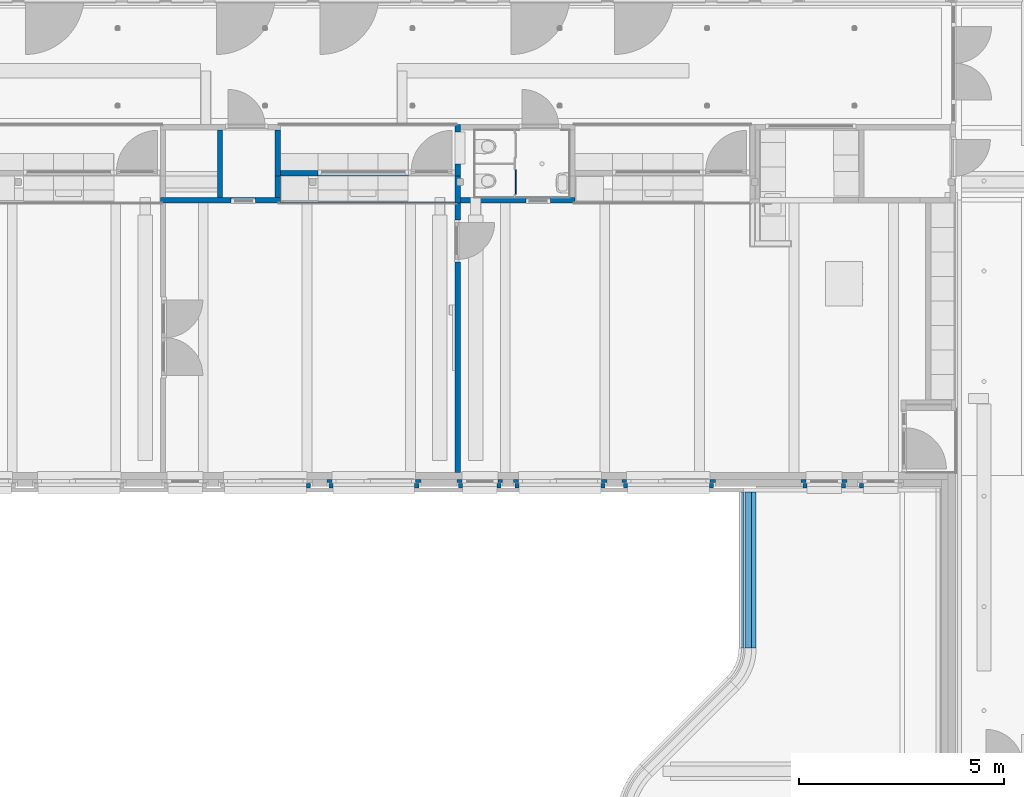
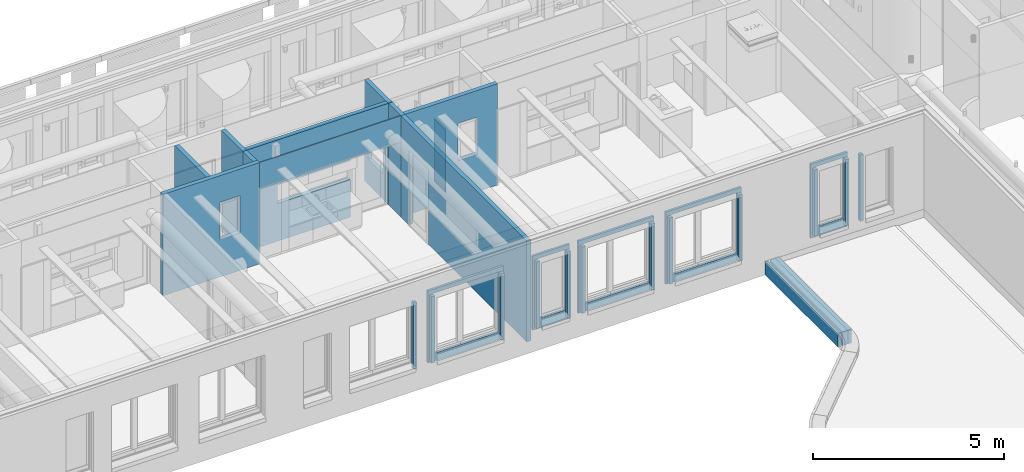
# One storey, part 49 of 128: 31 walls, 11 openings.
"""IFC2X3 building model written with IfcOpenShell, lengths in millimetres."""

import ifcopenshell
import ifcopenshell.guid

model = None  # the IFC model being written
_history = None  # IfcOwnerHistory: only IFC2X3 demands one
_inside = {}  # id of a spatial element -> (the spatial element, [elements in it])
_under = {}  # id of a project, library or spatial element -> (it, [spatial elements below it])
_declared = {}  # id of a project -> (the project, [libraries it declares])
_typed = {}  # id of a type object -> (the type object, [elements of that type])
_made_of = {}  # id of a material, layer set ... -> (it, [elements and type objects made of it])


def new_model(schema):
    """Start an empty IFC model of exactly this schema.

    Asked for "IFC4X3", IfcOpenShell would pick the latest addendum, in which some entities
    have other attributes; the version numbers below select the first issue.
    IFC2X3 requires an IfcOwnerHistory on every rooted entity: one is made here for all.
    """
    global model, _history
    if schema == "IFC4X3":
        model = ifcopenshell.file(schema_version=(4, 3, 0, 0))
    else:
        model = ifcopenshell.file(schema=schema)
    _inside.clear()
    _under.clear()
    _declared.clear()
    _typed.clear()
    _made_of.clear()
    _history = None
    if model.schema == "IFC2X3":
        org = make("IfcOrganization", Name="unknown")
        user = make(
            "IfcPersonAndOrganization",
            ThePerson=make("IfcPerson", FamilyName="unknown"),
            TheOrganization=org,
        )
        app = make(
            "IfcApplication",
            ApplicationDeveloper=org,
            Version="unknown",
            ApplicationFullName="unknown",
            ApplicationIdentifier="unknown",
        )
        _history = make(
            "IfcOwnerHistory",
            OwningUser=user,
            OwningApplication=app,
            ChangeAction="ADDED",
            CreationDate=0,
        )
    return model


def make(cls, **values):
    """One entity of the class cls with the attributes given. An attribute that is None is left unset."""
    return model.create_entity(
        cls, **{name: value for name, value in values.items() if value is not None}
    )


def entity(cls, *values):
    """Any entity or typed value of the class cls, its attributes in the order of the schema. None: left unset."""
    e = model.create_entity(cls)
    for i, value in enumerate(values):
        if value is not None:
            e[i] = value
    return e


def rooted(cls, **values):
    """An entity with a GlobalId (a new one), such as an element, a storey or a relation."""
    return make(cls, GlobalId=ifcopenshell.guid.new(), OwnerHistory=_history, **values)


def si_unit(unit_type, name, prefix=None):
    """IfcSIUnit, for example si_unit("LENGTHUNIT", "METRE", prefix="MILLI")."""
    return make("IfcSIUnit", UnitType=unit_type, Prefix=prefix, Name=name)


def converted_unit(unit_type, name, factor, base, dimensions=None, offset=None):
    """IfcConversionBasedUnit, such as the inch: factor (a typed value) times the base unit."""
    return make(
        "IfcConversionBasedUnit"
        if offset is None
        else "IfcConversionBasedUnitWithOffset",
        ConversionOffset=offset,
        Dimensions=None
        if dimensions is None
        else entity("IfcDimensionalExponents", *dimensions),
        UnitType=unit_type,
        Name=name,
        ConversionFactor=make(
            "IfcMeasureWithUnit", ValueComponent=factor, UnitComponent=base
        ),
    )


def derived_unit(unit_type, elements):
    """IfcDerivedUnit: a product of units, each with its exponent."""
    return make(
        "IfcDerivedUnit",
        Elements=[
            make("IfcDerivedUnitElement", Unit=unit, Exponent=power)
            for unit, power in elements
        ],
        UnitType=unit_type,
    )


def assignment(units):
    """IfcUnitAssignment: the units of a project."""
    return None if units is None else make("IfcUnitAssignment", Units=units)


def point(xyz):
    """IfcCartesianPoint."""
    return None if xyz is None else make("IfcCartesianPoint", Coordinates=xyz)


def direction(xyz):
    """IfcDirection."""
    return None if xyz is None else make("IfcDirection", DirectionRatios=xyz)


def frame(location, z_axis=None, x_axis=None):
    """IfcAxis2Placement3D, a coordinate frame: its origin and axes. An axis left out is left unset."""
    return make(
        "IfcAxis2Placement3D",
        Location=point(location),
        Axis=direction(z_axis),
        RefDirection=direction(x_axis),
    )


def frame_2d(location, x_axis=None):
    """IfcAxis2Placement2D, a coordinate frame in the plane: its origin and x axis."""
    return make(
        "IfcAxis2Placement2D", Location=point(location), RefDirection=direction(x_axis)
    )


def origin():
    """The frame at (0, 0, 0) with its axes left unset."""
    return frame((0.0, 0.0, 0.0))


def origin_2d_with_axis():
    """The frame at (0, 0) in the plane with the x axis (1, 0) written out."""
    return frame_2d((0.0, 0.0), x_axis=(1.0, 0.0))


def place(relative_to, where):
    """IfcLocalPlacement: puts the frame where relative to a parent placement (None: the world)."""
    return make(
        "IfcLocalPlacement", PlacementRelTo=relative_to, RelativePlacement=where
    )


def context(
    kind, dimensions, precision=None, world=None, true_north=None, identifier=None
):
    """IfcGeometricRepresentationContext, for example the 3D "Model" context."""
    return make(
        "IfcGeometricRepresentationContext",
        ContextIdentifier=identifier,
        ContextType=kind,
        CoordinateSpaceDimension=dimensions,
        Precision=precision,
        WorldCoordinateSystem=world,
        TrueNorth=true_north,
    )


def subcontext(parent, identifier, kind, view, scale=None):
    """IfcGeometricRepresentationSubContext, for example "Body" below "Model"."""
    return make(
        "IfcGeometricRepresentationSubContext",
        ContextIdentifier=identifier,
        ContextType=kind,
        ParentContext=parent,
        TargetScale=scale,
        TargetView=view,
    )


def project(units=None, contexts=None):
    """IfcProject with its units and contexts."""
    return rooted(
        "IfcProject",
        Name="project",
        RepresentationContexts=contexts,
        UnitsInContext=assignment(units),
    )


def spatial(cls, under=None, at=None, **own):
    """A site, building, storey or space (cls), placed at a placement, below another one or the project."""
    s = rooted(cls, ObjectPlacement=at, **own)
    if under is not None:
        _under.setdefault(under.id(), (under, []))[1].append(s)
    return s


def profile(cls, at=None, kind="AREA", **sizes):
    """A parametric profile (cls). Its sizes go by their IFC names, for example OverallWidth=200.0."""
    return make(cls, ProfileType=kind, Position=at, **sizes)


def rectangle(**sizes):
    """IfcRectangleProfileDef."""
    return profile("IfcRectangleProfileDef", **sizes)


def extrude(swept, where, along, depth):
    """IfcExtrudedAreaSolid: the profile swept, set in the frame where, extruded along a direction by depth."""
    return make(
        "IfcExtrudedAreaSolid",
        SweptArea=swept,
        Position=where,
        ExtrudedDirection=direction(along),
        Depth=depth,
    )


def shape(context_of_items, identifier, shape_type, items):
    """IfcShapeRepresentation: the items that make up one representation, for example the "Body"."""
    return make(
        "IfcShapeRepresentation",
        ContextOfItems=context_of_items,
        RepresentationIdentifier=identifier,
        RepresentationType=shape_type,
        Items=items,
    )


def material(Name=None, Category=None):
    """IfcMaterial."""
    return make("IfcMaterial", Name=Name, Category=Category)


def layer(
    of_material, thickness, ventilated=None, Name=None, Category=None, Priority=None
):
    """IfcMaterialLayer: one layer of a wall or slab, of a material (None: an air gap)."""
    return make(
        "IfcMaterialLayer",
        Material=of_material,
        LayerThickness=thickness,
        IsVentilated=ventilated,
        Name=Name,
        Category=Category,
        Priority=Priority,
    )


def layer_set(layers, Name=None):
    """IfcMaterialLayerSet."""
    return make("IfcMaterialLayerSet", MaterialLayers=layers, LayerSetName=Name)


def layer_usage(for_layer_set, set_direction, sense, offset, extent=None):
    """IfcMaterialLayerSetUsage: how a layer set lies in its element."""
    return make(
        "IfcMaterialLayerSetUsage",
        ForLayerSet=for_layer_set,
        LayerSetDirection=set_direction,
        DirectionSense=sense,
        OffsetFromReferenceLine=offset,
        ReferenceExtent=extent,
    )


def made_of(thing, what):
    """Note that an element or type object is made of a material, layer set ...; save() writes the relation."""
    if what is not None:
        _made_of.setdefault(what.id(), (what, []))[1].append(thing)
    return thing


def type_object(cls, material=None, **own):
    """A type object (cls), such as IfcWallType, which elements share."""
    return made_of(rooted(cls, **own), material)


def element(
    cls,
    number,
    at=None,
    inside=None,
    cuts=None,
    type_object=None,
    material=None,
    context=None,
    identifier="Body",
    shape_type=None,
    held_by="IfcProductDefinitionShape",
    body=None,
    shapes=None,
    **own,
):
    """One element of the class cls, such as IfcWall. Its Tag is "e" and its number.

    at: its placement. inside: the storey or other place that contains it. cuts: it is an
    opening in that element (IfcRelVoidsElement). A single representation is given by context,
    identifier, shape_type and body (its items); several are given by shapes. held_by: the class
    of the entity that holds the representations. save() writes the other relations.
    """
    e = rooted(cls, Tag="e%d" % number, ObjectPlacement=at, **own)
    if body is not None:
        shapes = [shape(context, identifier, shape_type, body)]
    if shapes is not None:
        e.Representation = make(held_by, Representations=shapes)
    if inside is not None:
        _inside.setdefault(inside.id(), (inside, []))[1].append(e)
    if cuts is not None:
        rooted(
            "IfcRelVoidsElement", RelatingBuildingElement=cuts, RelatedOpeningElement=e
        )
    if type_object is not None:
        _typed.setdefault(type_object.id(), (type_object, []))[1].append(e)
    return made_of(e, material)


def aggregate(whole, parts):
    """IfcRelAggregates: a whole, such as a stair, and the parts it consists of."""
    return rooted("IfcRelAggregates", RelatingObject=whole, RelatedObjects=parts)


def save(model, path):
    """Write the relations noted so far, then the file.

    IfcRelAggregates (storeys below a building ...), IfcRelContainedInSpatialStructure (elements
    in a storey), IfcRelDefinesByType, IfcRelAssociatesMaterial and IfcRelDeclares: one each for
    every whole, place, type object, material and project.
    """
    for whole, parts in _under.values():
        aggregate(whole, parts)
    for where, things in _inside.values():
        rooted(
            "IfcRelContainedInSpatialStructure",
            RelatedElements=things,
            RelatingStructure=where,
        )
    for kind, things in _typed.values():
        rooted("IfcRelDefinesByType", RelatedObjects=things, RelatingType=kind)
    for what, things in _made_of.values():
        rooted("IfcRelAssociatesMaterial", RelatedObjects=things, RelatingMaterial=what)
    for by, libraries in _declared.values():
        rooted("IfcRelDeclares", RelatingContext=by, RelatedDefinitions=libraries)
    model.write(path)


model = new_model("IFC2X3")

# Units and contexts
model_context = context("Model", 3, precision=0.01, world=origin(), true_north=direction((6.123031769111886e-17, 1.0)))
body_context = subcontext(model_context, "Body", "Model", "MODEL_VIEW")
ifc_project = project(units=[si_unit("LENGTHUNIT", "METRE", prefix="MILLI"), si_unit("AREAUNIT", "SQUARE_METRE"), si_unit("VOLUMEUNIT", "CUBIC_METRE"), converted_unit("PLANEANGLEUNIT", "DEGREE", entity("IfcRatioMeasure", 0.017453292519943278), si_unit("PLANEANGLEUNIT", "RADIAN"), dimensions=[0, 0, 0, 0, 0, 0, 0]), si_unit("MASSUNIT", "GRAM", prefix="KILO"), derived_unit("MASSDENSITYUNIT", [(si_unit("MASSUNIT", "GRAM", prefix="KILO"), 1), (si_unit("LENGTHUNIT", "METRE"), -3)]), derived_unit("IONCONCENTRATIONUNIT", [(si_unit("MASSUNIT", "GRAM", prefix="KILO"), 1), (si_unit("LENGTHUNIT", "METRE"), -3)]), derived_unit("MOMENTOFINERTIAUNIT", [(si_unit("LENGTHUNIT", "METRE"), 4)]), si_unit("TIMEUNIT", "SECOND"), si_unit("FREQUENCYUNIT", "HERTZ"), si_unit("THERMODYNAMICTEMPERATUREUNIT", "DEGREE_CELSIUS"), derived_unit("THERMALTRANSMITTANCEUNIT", [(si_unit("MASSUNIT", "GRAM", prefix="KILO"), 1), (si_unit("THERMODYNAMICTEMPERATUREUNIT", "KELVIN"), -1), (si_unit("TIMEUNIT", "SECOND"), -3)]), derived_unit("THERMALCONDUCTANCEUNIT", [(si_unit("MASSUNIT", "GRAM", prefix="KILO"), 1), (si_unit("THERMODYNAMICTEMPERATUREUNIT", "KELVIN"), -1), (si_unit("TIMEUNIT", "SECOND"), -3), (si_unit("LENGTHUNIT", "METRE"), 1)]), derived_unit("VOLUMETRICFLOWRATEUNIT", [(si_unit("LENGTHUNIT", "METRE"), 3), (si_unit("TIMEUNIT", "SECOND"), -1)]), derived_unit("MASSFLOWRATEUNIT", [(si_unit("MASSUNIT", "GRAM", prefix="KILO"), 1), (si_unit("TIMEUNIT", "SECOND"), -1)]), derived_unit("ROTATIONALFREQUENCYUNIT", [(si_unit("TIMEUNIT", "SECOND"), -1)]), si_unit("ELECTRICCURRENTUNIT", "AMPERE"), si_unit("ELECTRICVOLTAGEUNIT", "VOLT"), si_unit("POWERUNIT", "WATT"), si_unit("FORCEUNIT", "NEWTON", prefix="KILO"), si_unit("ILLUMINANCEUNIT", "LUX"), si_unit("LUMINOUSFLUXUNIT", "LUMEN"), si_unit("LUMINOUSINTENSITYUNIT", "CANDELA"), derived_unit("USERDEFINED", [(si_unit("MASSUNIT", "GRAM", prefix="KILO"), -1), (si_unit("LENGTHUNIT", "METRE"), -2), (si_unit("TIMEUNIT", "SECOND"), 3), (si_unit("LUMINOUSFLUXUNIT", "LUMEN"), 1)]), derived_unit("USERDEFINED", [(si_unit("MASSUNIT", "GRAM", prefix="KILO"), 1), (si_unit("TIMEUNIT", "SECOND"), -3), (si_unit("LENGTHUNIT", "METRE"), 3), (si_unit("ELECTRICCURRENTUNIT", "AMPERE"), -2)]), derived_unit("SOUNDPOWERUNIT", [(si_unit("MASSUNIT", "GRAM", prefix="KILO"), 1), (si_unit("TIMEUNIT", "SECOND"), -3), (si_unit("LENGTHUNIT", "METRE"), 2)]), derived_unit("SOUNDPRESSUREUNIT", [(si_unit("MASSUNIT", "GRAM", prefix="KILO"), 1), (si_unit("LENGTHUNIT", "METRE"), -1), (si_unit("TIMEUNIT", "SECOND"), -2)]), derived_unit("LINEARVELOCITYUNIT", [(si_unit("LENGTHUNIT", "METRE"), 1), (si_unit("TIMEUNIT", "SECOND"), -1)]), si_unit("PRESSUREUNIT", "PASCAL"), derived_unit("USERDEFINED", [(si_unit("MASSUNIT", "GRAM", prefix="KILO"), 1), (si_unit("LENGTHUNIT", "METRE"), -2), (si_unit("TIMEUNIT", "SECOND"), -2)]), derived_unit("LINEARFORCEUNIT", [(si_unit("MASSUNIT", "GRAM", prefix="KILO"), 1), (si_unit("TIMEUNIT", "SECOND"), -2)]), derived_unit("PLANARFORCEUNIT", [(si_unit("MASSUNIT", "GRAM", prefix="KILO"), 1), (si_unit("LENGTHUNIT", "METRE"), -1), (si_unit("TIMEUNIT", "SECOND"), -2)]), derived_unit("SPECIFICHEATCAPACITYUNIT", [(si_unit("THERMODYNAMICTEMPERATUREUNIT", "KELVIN"), -1), (si_unit("LENGTHUNIT", "METRE"), 2), (si_unit("TIMEUNIT", "SECOND"), -2)]), derived_unit("HEATINGVALUEUNIT", [(si_unit("LENGTHUNIT", "METRE"), 2), (si_unit("TIMEUNIT", "SECOND"), -2)]), derived_unit("VAPORPERMEABILITYUNIT", [(si_unit("LENGTHUNIT", "METRE"), -1), (si_unit("TIMEUNIT", "SECOND"), 1)]), derived_unit("DYNAMICVISCOSITYUNIT", [(si_unit("MASSUNIT", "GRAM", prefix="KILO"), 1), (si_unit("TIMEUNIT", "SECOND"), -1), (si_unit("LENGTHUNIT", "METRE"), -1)]), derived_unit("THERMALEXPANSIONCOEFFICIENTUNIT", [(si_unit("THERMODYNAMICTEMPERATUREUNIT", "KELVIN"), -1)]), derived_unit("MODULUSOFELASTICITYUNIT", [(si_unit("MASSUNIT", "GRAM", prefix="KILO"), 1), (si_unit("LENGTHUNIT", "METRE"), -1), (si_unit("TIMEUNIT", "SECOND"), -2)]), derived_unit("ISOTHERMALMOISTURECAPACITYUNIT", [(si_unit("LENGTHUNIT", "METRE"), 3), (si_unit("MASSUNIT", "GRAM", prefix="KILO"), -1)]), derived_unit("MOISTUREDIFFUSIVITYUNIT", [(si_unit("TIMEUNIT", "SECOND"), -1), (si_unit("LENGTHUNIT", "METRE"), 2)])], contexts=[model_context])

# Site, building, storey
site_placement = place(None, frame((0.0, 300.0, 0.0)))
site = spatial("IfcSite", under=ifc_project, at=site_placement, Name="<Kadastrale nummers>", CompositionType="ELEMENT")
building_placement = place(site_placement, origin())
building = spatial("IfcBuilding", under=site, at=building_placement, CompositionType="ELEMENT")
storey_placement = place(building_placement, frame((0.0, 0.0, 3560.0000331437)))
storey = spatial("IfcBuildingStorey", under=building, at=storey_placement, Name="01 eerste verdieping", CompositionType="ELEMENT", Elevation=3560.0000331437)

# Walls
ifc_material_1 = material(Name="ISR_Metselwerk")
ifc_layer_1 = layer(ifc_material_1, 100.0)
ifc_layer_set_1 = layer_set([ifc_layer_1], Name="Basic Wall:21_DAT_metselwerk_100")
ifc_layer_usage_1 = layer_usage(ifc_layer_set_1, "AXIS2", "POSITIVE", -50.0)
wall_type_1 = type_object("IfcWallType", Name="Basic Wall:21_DAT_metselwerk_100", PredefinedType="STANDARD", material=ifc_layer_set_1)
wall_1_placement = place(storey_placement, frame((31475.036916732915, 37725.0, 89.99997731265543), z_axis=(0.0, 0.0, 1.0), x_axis=(0.0, -1.0, 0.0)))
element("IfcWallStandardCase", 1, at=wall_1_placement, inside=storey, type_object=wall_type_1, material=ifc_layer_usage_1, Name="Basic Wall:21_DAT_metselwerk_100", ObjectType="Basic Wall:21_DAT_metselwerk_100", context=body_context, shape_type="SweptSolid", body=[
    extrude(rectangle(XDim=3814.2862479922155, YDim=100.00000000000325, at=frame_2d((1907.1431239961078, -3.552713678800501e-15), x_axis=(-1.0, 0.0))), origin(), (0.0, 0.0, 1.0), 424.9999895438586),
])
ifc_layer_usage_2 = layer_usage(ifc_layer_set_1, "AXIS2", "NEGATIVE", 50.0)
wall_2_placement = place(storey_placement, frame((25550.0, 37825.0, 715.0000018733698), z_axis=(0.0, 0.0, 1.0), x_axis=(0.0, 1.0, 0.0)))
element("IfcWallStandardCase", 2, at=wall_2_placement, inside=storey, type_object=wall_type_1, material=ifc_layer_usage_2, Name="Basic Wall:21_DAT_metselwerk_100", ObjectType="Basic Wall:21_DAT_metselwerk_100", context=body_context, shape_type="SweptSolid", body=[
    extrude(rectangle(XDim=110.000000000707, YDim=100.00000000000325, at=frame_2d((55.0000000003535, -8.171241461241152e-14), x_axis=(-1.0, 0.0))), origin(), (0.0, 0.0, 1.0), 2125.0000000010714),
])
wall_3_placement = place(storey_placement, frame((24610.0, 37825.0, 715.0000018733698), z_axis=(0.0, 0.0, 1.0), x_axis=(0.0, 1.0, 0.0)))
element("IfcWallStandardCase", 3, at=wall_3_placement, inside=storey, type_object=wall_type_1, material=ifc_layer_usage_1, Name="Basic Wall:21_DAT_metselwerk_100", ObjectType="Basic Wall:21_DAT_metselwerk_100", context=body_context, shape_type="SweptSolid", body=[
    extrude(rectangle(XDim=110.00000000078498, YDim=100.00000000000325, at=frame_2d((55.00000000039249, -8.171241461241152e-14), x_axis=(-1.0, 0.0))), origin(), (0.0, 0.0, 1.0), 2125.0000000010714),
])
wall_4_placement = place(storey_placement, frame((33964.0, 37825.0, 715.0000018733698), z_axis=(0.0, 0.0, 1.0), x_axis=(0.0, 1.0, 0.0)))
element("IfcWallStandardCase", 4, at=wall_4_placement, inside=storey, type_object=wall_type_1, material=ifc_layer_usage_2, Name="Basic Wall:21_DAT_metselwerk_100", ObjectType="Basic Wall:21_DAT_metselwerk_100", context=body_context, shape_type="SweptSolid", body=[
    extrude(rectangle(XDim=110.00000000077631, YDim=100.00000000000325, at=frame_2d((55.000000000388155, -8.171241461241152e-14), x_axis=(-1.0, 0.0))), origin(), (0.0, 0.0, 1.0), 2125.0000000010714),
])
for number, where, z_axis, x_axis, name in (
    (5, (33024.0, 37825.0, 715.0000018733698), (0.0, 0.0, 1.0), (0.0, 1.0, 0.0), "Basic Wall:21_DAT_metselwerk_100"),
    (6, (34404.0, 37825.0, 715.0000018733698), (0.0, 0.0, 1.0), (0.0, 1.0, 0.0), "Basic Wall:21_DAT_metselwerk_100"),
):
    element("IfcWallStandardCase", number, at=place(storey_placement, frame(where, z_axis=z_axis, x_axis=x_axis)), inside=storey, type_object=wall_type_1, material=ifc_layer_usage_1, Name=name, ObjectType="Basic Wall:21_DAT_metselwerk_100", context=body_context, shape_type="SweptSolid", body=[
        extrude(rectangle(XDim=110.0000000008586, YDim=100.00000000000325, at=frame_2d((55.0000000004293, -8.171241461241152e-14), x_axis=(-1.0, 0.0))), origin(), (0.0, 0.0, 1.0), 2125.0000000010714),
    ])
wall_5_placement = place(storey_placement, frame((23540.0, 37825.0, 715.0000018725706), z_axis=(0.0, 0.0, 1.0), x_axis=(0.0, 1.0, 0.0)))
element("IfcWallStandardCase", 7, at=wall_5_placement, inside=storey, type_object=wall_type_1, material=ifc_layer_usage_2, Name="Basic Wall:21_DAT_metselwerk_100", ObjectType="Basic Wall:21_DAT_metselwerk_100", context=body_context, shape_type="SweptSolid", body=[
    extrude(rectangle(XDim=109.99999999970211, YDim=100.00000000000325, at=frame_2d((54.999999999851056, 1.3287149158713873e-12), x_axis=(-1.0, 0.0))), origin(), (0.0, 0.0, 1.0), 2125.0000000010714),
])
wall_6_placement = place(storey_placement, frame((21440.0, 37825.0, 715.0000018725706), z_axis=(0.0, 0.0, 1.0), x_axis=(0.0, 1.0, 0.0)))
element("IfcWallStandardCase", 8, at=wall_6_placement, inside=storey, type_object=wall_type_1, material=ifc_layer_usage_1, Name="Basic Wall:21_DAT_metselwerk_100", ObjectType="Basic Wall:21_DAT_metselwerk_100", context=body_context, shape_type="SweptSolid", body=[
    extrude(rectangle(XDim=109.99999999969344, YDim=100.00000000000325, at=frame_2d((54.99999999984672, -1.4672707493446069e-12), x_axis=(-1.0, 0.0))), origin(), (0.0, 0.0, 1.0), 2125.0000000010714),
])
wall_7_placement = place(storey_placement, frame((20890.0, 37825.0, 715.0000018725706), z_axis=(0.0, 0.0, 1.0), x_axis=(0.0, 1.0, 0.0)))
element("IfcWallStandardCase", 9, at=wall_7_placement, inside=storey, type_object=wall_type_1, material=ifc_layer_usage_2, Name="Basic Wall:21_DAT_metselwerk_100", ObjectType="Basic Wall:21_DAT_metselwerk_100", context=body_context, shape_type="SweptSolid", body=[
    extrude(rectangle(XDim=109.99999999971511, YDim=100.00000000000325, at=frame_2d((54.99999999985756, 1.3287149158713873e-12), x_axis=(-1.0, 0.0))), origin(), (0.0, 0.0, 1.0), 2125.0000000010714),
])
wall_8_placement = place(storey_placement, frame((30740.0, 37825.0, 715.0000018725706), z_axis=(0.0, 0.0, 1.0), x_axis=(0.0, 1.0, 0.0)))
element("IfcWallStandardCase", 10, at=wall_8_placement, inside=storey, type_object=wall_type_1, material=ifc_layer_usage_2, Name="Basic Wall:21_DAT_metselwerk_100", ObjectType="Basic Wall:21_DAT_metselwerk_100", context=body_context, shape_type="SweptSolid", body=[
    extrude(rectangle(XDim=109.99999999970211, YDim=100.00000000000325, at=frame_2d((54.999999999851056, 1.3287149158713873e-12), x_axis=(-1.0, 0.0))), origin(), (0.0, 0.0, 1.0), 2125.0000000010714),
])
wall_9_placement = place(storey_placement, frame((28640.0, 37825.0, 715.0000018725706), z_axis=(0.0, 0.0, 1.0), x_axis=(0.0, 1.0, 0.0)))
element("IfcWallStandardCase", 11, at=wall_9_placement, inside=storey, type_object=wall_type_1, material=ifc_layer_usage_1, Name="Basic Wall:21_DAT_metselwerk_100", ObjectType="Basic Wall:21_DAT_metselwerk_100", context=body_context, shape_type="SweptSolid", body=[
    extrude(rectangle(XDim=109.99999999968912, YDim=100.00000000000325, at=frame_2d((54.99999999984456, -1.4672707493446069e-12), x_axis=(-1.0, 0.0))), origin(), (0.0, 0.0, 1.0), 2125.0000000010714),
])
wall_10_placement = place(storey_placement, frame((28090.0, 37825.0, 715.0000018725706), z_axis=(0.0, 0.0, 1.0), x_axis=(0.0, 1.0, 0.0)))
element("IfcWallStandardCase", 12, at=wall_10_placement, inside=storey, type_object=wall_type_1, material=ifc_layer_usage_2, Name="Basic Wall:21_DAT_metselwerk_100", ObjectType="Basic Wall:21_DAT_metselwerk_100", context=body_context, shape_type="SweptSolid", body=[
    extrude(rectangle(XDim=109.99999999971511, YDim=100.00000000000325, at=frame_2d((54.99999999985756, 1.3287149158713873e-12), x_axis=(-1.0, 0.0))), origin(), (0.0, 0.0, 1.0), 2125.0000000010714),
])
wall_11_placement = place(storey_placement, frame((25990.0, 37825.0, 715.0000018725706), z_axis=(0.0, 0.0, 1.0), x_axis=(0.0, 1.0, 0.0)))
element("IfcWallStandardCase", 13, at=wall_11_placement, inside=storey, type_object=wall_type_1, material=ifc_layer_usage_1, Name="Basic Wall:21_DAT_metselwerk_100", ObjectType="Basic Wall:21_DAT_metselwerk_100", context=body_context, shape_type="SweptSolid", body=[
    extrude(rectangle(XDim=109.99999999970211, YDim=100.00000000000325, at=frame_2d((54.999999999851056, -1.4672707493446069e-12), x_axis=(-1.0, 0.0))), origin(), (0.0, 0.0, 1.0), 2125.0000000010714),
])

# Wall, opening
ifc_material_2 = material(Name="ISR_Gips")
ifc_layer_2 = layer(ifc_material_2, 1.0)
ifc_material_3 = material(Name="ISR_Binnenwand")
ifc_layer_3 = layer(ifc_material_3, 123.0)
ifc_layer_4 = layer(ifc_material_2, 1.0)
ifc_layer_set_2 = layer_set([ifc_layer_2, ifc_layer_3, ifc_layer_4], Name="Basic Wall:22_DAT_binnenwand_125")
ifc_layer_usage_3 = layer_usage(ifc_layer_set_2, "AXIS2", "NEGATIVE", 62.50000000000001)
wall_type_2 = type_object("IfcWallType", Name="Basic Wall:22_DAT_binnenwand_125", PredefinedType="STANDARD", material=ifc_layer_set_2)
wall_12_placement = place(storey_placement, frame((17280.0, 44852.499999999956, 90.00000187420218)))
wall_12 = element("IfcWallStandardCase", 14, at=wall_12_placement, inside=storey, type_object=wall_type_2, material=ifc_layer_usage_3, Name="Basic Wall:22_DAT_binnenwand_125", ObjectType="Basic Wall:22_DAT_binnenwand_125", context=body_context, shape_type="SweptSolid", body=[
    extrude(rectangle(XDim=2924.9999999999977, YDim=125.00000000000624, at=frame_2d((1462.4999999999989, 2.2666313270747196e-12), x_axis=(-1.0, 0.0))), origin(), (0.0, 0.0, 1.0), 3240.0000290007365),
])
opening_1_placement = place(wall_12_placement, origin())
element("IfcOpeningElement", 15, at=opening_1_placement, cuts=wall_12, Name="Basic Wall:22_DAT_binnenwand_125", ObjectType="Opening", context=body_context, shape_type="SweptSolid", body=[
    extrude(rectangle(XDim=1190.0000000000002, YDim=600.0, at=frame_2d((-1.0800249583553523e-12, 0.0), x_axis=(0.0, 1.0))), frame((2025.0, -214.90000000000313, 1795.0), z_axis=(0.0, 1.0, 0.0), x_axis=(-1.0, 0.0, 0.0)), (0.0, 0.0, 1.0), 429.79999999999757),
])

wall_13_placement = place(storey_placement, frame((24542.500000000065, 38200.0, 90.00000187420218), z_axis=(0.0, 0.0, 1.0), x_axis=(0.0, 1.0, 0.0)))
wall_13 = element("IfcWallStandardCase", 16, at=wall_13_placement, inside=storey, type_object=wall_type_2, material=ifc_layer_usage_3, Name="Basic Wall:22_DAT_binnenwand_125", ObjectType="Basic Wall:22_DAT_binnenwand_125", context=body_context, shape_type="SweptSolid", body=[
    extrude(rectangle(XDim=6590.000000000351, YDim=125.0000000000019, at=frame_2d((3295.0000000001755, -1.0906830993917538e-12), x_axis=(1.0, 0.0))), origin(), (0.0, 0.0, 1.0), 3239.9999999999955),
])
opening_2_placement = place(wall_13_placement, origin())
element("IfcOpeningElement", 17, at=opening_2_placement, cuts=wall_13, Name="Basic Wall:22_DAT_binnenwand_125", ObjectType="Opening", context=body_context, shape_type="SweptSolid", body=[
    extrude(rectangle(XDim=2390.0000000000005, YDim=1034.0000000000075, at=origin_2d_with_axis()), frame((5658.0, -214.9000000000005, 1195.0), z_axis=(0.0, 1.0, 0.0), x_axis=(0.0, 0.0, 1.0)), (0.0, 0.0, 1.0), 429.8000000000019),
])

# Wall
wall_14_placement = place(storey_placement, frame((18727.50000000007, 44915.0, 90.00000187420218), z_axis=(0.0, 0.0, 1.0), x_axis=(0.0, 1.0, 0.0)))
element("IfcWallStandardCase", 18, at=wall_14_placement, inside=storey, type_object=wall_type_2, material=ifc_layer_usage_3, Name="Basic Wall:22_DAT_binnenwand_125", ObjectType="Basic Wall:22_DAT_binnenwand_125", context=body_context, shape_type="SweptSolid", body=[
    extrude(rectangle(XDim=1659.999999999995, YDim=125.0000000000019, at=frame_2d((829.9999999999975, 0.0), x_axis=(-1.0, 0.0))), origin(), (0.0, 0.0, 1.0), 3240.0000290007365),
])

# Wall, opening
ifc_layer_usage_4 = layer_usage(ifc_layer_set_2, "AXIS2", "POSITIVE", -62.50000000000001)
wall_15_placement = place(storey_placement, frame((24605.0, 44852.50000000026, 90.00000187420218)))
wall_15 = element("IfcWallStandardCase", 19, at=wall_15_placement, inside=storey, type_object=wall_type_2, material=ifc_layer_usage_4, Name="Basic Wall:22_DAT_binnenwand_125", ObjectType="Basic Wall:22_DAT_binnenwand_125", context=body_context, shape_type="SweptSolid", body=[
    extrude(rectangle(XDim=2799.9999999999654, YDim=125.00000000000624, at=frame_2d((1399.9999999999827, -4.192202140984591e-13), x_axis=(-1.0, 0.0))), origin(), (0.0, 0.0, 1.0), 3240.0000290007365),
])
opening_3_placement = place(wall_15_placement, origin())
element("IfcOpeningElement", 20, at=opening_3_placement, cuts=wall_15, Name="Basic Wall:22_DAT_binnenwand_125", ObjectType="Opening", context=body_context, shape_type="SweptSolid", body=[
    extrude(rectangle(XDim=1190.0000000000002, YDim=600.0000000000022, at=frame_2d((0.0, 0.0), x_axis=(0.0, 1.0))), frame((1900.0, -214.89999999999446, 1795.0), z_axis=(0.0, 1.0, 0.0), x_axis=(-1.0, 0.0, 0.0)), (0.0, 0.0, 1.0), 429.79999999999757),
])

ifc_layer_5 = layer(ifc_material_3, 113.0)
ifc_material_4 = material(Name="ISR_HPL Kleur hout")
ifc_layer_6 = layer(ifc_material_4, 12.0)
ifc_layer_set_3 = layer_set([ifc_layer_5, ifc_layer_6], Name="Basic Wall:22_DAT_binnenwand_125 HPL")
ifc_layer_usage_5 = layer_usage(ifc_layer_set_3, "AXIS2", "NEGATIVE", 62.49999999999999)
wall_type_3 = type_object("IfcWallType", Name="Basic Wall:22_DAT_binnenwand_125 HPL", PredefinedType="STANDARD", material=ifc_layer_set_3)
wall_16_placement = place(storey_placement, frame((24542.500000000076, 46700.0, 90.00000187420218), z_axis=(0.0, 0.0, 1.0), x_axis=(0.0, -1.0, 0.0)))
wall_16 = element("IfcWallStandardCase", 21, at=wall_16_placement, inside=storey, type_object=wall_type_3, material=ifc_layer_usage_5, Name="Basic Wall:22_DAT_binnenwand_125 HPL", ObjectType="Basic Wall:22_DAT_binnenwand_125 HPL", context=body_context, shape_type="SweptSolid", body=[
    extrude(rectangle(XDim=1249.9999999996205, YDim=125.0000000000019, at=frame_2d((624.9999999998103, -1.9113599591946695e-12), x_axis=(-1.0, 0.0))), origin(), (0.0, 0.0, 1.0), 3240.0000290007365),
])
opening_4_placement = place(wall_16_placement, origin())
element("IfcOpeningElement", 22, at=opening_4_placement, cuts=wall_16, Name="Basic Wall:22_DAT_binnenwand_125 HPL", ObjectType="Opening", context=body_context, shape_type="SweptSolid", body=[
    extrude(rectangle(XDim=790.0000000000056, YDim=790.0000000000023, at=frame_2d((-4.348521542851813e-12, 0.0), x_axis=(0.0, 1.0))), frame((570.0, -62.499999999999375, 1195.0), z_axis=(0.0, 1.0, 0.0), x_axis=(1.0, 0.0, 0.0)), (0.0, 0.0, 1.0), 240.00000000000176),
])

# Walls
ifc_layer_usage_6 = layer_usage(ifc_layer_set_3, "AXIS2", "POSITIVE", -62.49999999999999)
wall_17_placement = place(storey_placement, frame((20142.500000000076, 46575.0, 90.00000187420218), z_axis=(0.0, 0.0, 1.0), x_axis=(0.0, -1.0, 0.0)))
element("IfcWallStandardCase", 23, at=wall_17_placement, inside=storey, type_object=wall_type_3, material=ifc_layer_usage_6, Name="Basic Wall:22_DAT_binnenwand_125 HPL", ObjectType="Basic Wall:22_DAT_binnenwand_125 HPL", context=body_context, shape_type="SweptSolid", body=[
    extrude(rectangle(XDim=1124.9999999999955, YDim=124.99999999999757, at=frame_2d((562.4999999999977, 3.090860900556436e-13), x_axis=(-1.0, 0.0))), origin(), (0.0, 0.0, 1.0), 3240.0000290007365),
])
wall_18_placement = place(storey_placement, frame((20142.500000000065, 45450.0, 90.00000187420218), z_axis=(0.0, 0.0, 1.0), x_axis=(0.0, -1.0, 0.0)))
element("IfcWallStandardCase", 24, at=wall_18_placement, inside=storey, type_object=wall_type_3, material=ifc_layer_usage_6, Name="Basic Wall:22_DAT_binnenwand_125 HPL", ObjectType="Basic Wall:22_DAT_binnenwand_125 HPL", context=body_context, shape_type="SweptSolid", body=[
    extrude(rectangle(XDim=534.9999999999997, YDim=124.99999999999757, at=frame_2d((267.49999999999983, -1.0942358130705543e-12), x_axis=(-1.0, 0.0))), origin(), (0.0, 0.0, 1.0), 3240.0000290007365),
])
wall_19_placement = place(storey_placement, frame((24542.50000000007, 45450.0, 90.00000187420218), z_axis=(0.0, 0.0, 1.0), x_axis=(0.0, -1.0, 0.0)))
element("IfcWallStandardCase", 25, at=wall_19_placement, inside=storey, type_object=wall_type_3, material=ifc_layer_usage_5, Name="Basic Wall:22_DAT_binnenwand_125 HPL", ObjectType="Basic Wall:22_DAT_binnenwand_125 HPL", context=body_context, shape_type="SweptSolid", body=[
    extrude(rectangle(XDim=660.0000000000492, YDim=124.99999999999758, at=frame_2d((330.0000000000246, 2.5579538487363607e-13), x_axis=(-1.0, 0.0))), origin(), (0.0, 0.0, 1.0), 3240.0000290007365),
])

# Wall, openings
ifc_layer_7 = layer(ifc_material_4, 12.0)
ifc_layer_8 = layer(ifc_material_3, 101.0)
ifc_layer_9 = layer(ifc_material_4, 12.0)
ifc_layer_set_4 = layer_set([ifc_layer_7, ifc_layer_8, ifc_layer_9], Name="Basic Wall:22_DAT_binnenwand_125 HPL dubbel")
ifc_layer_usage_7 = layer_usage(ifc_layer_set_4, "AXIS2", "POSITIVE", -62.50000000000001)
wall_type_4 = type_object("IfcWallType", Name="Basic Wall:22_DAT_binnenwand_125 HPL dubbel", PredefinedType="STANDARD", material=ifc_layer_set_4)
wall_20_placement = place(storey_placement, frame((20205.0, 45512.50000000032, 90.00000187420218)))
wall_20 = element("IfcWallStandardCase", 26, at=wall_20_placement, inside=storey, type_object=wall_type_4, material=ifc_layer_usage_7, Name="Basic Wall:22_DAT_binnenwand_125 HPL dubbel", ObjectType="Basic Wall:22_DAT_binnenwand_125 HPL dubbel", context=body_context, shape_type="SweptSolid", body=[
    extrude(rectangle(XDim=4275.000000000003, YDim=125.00000000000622, at=frame_2d((2137.5000000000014, 2.0321522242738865e-12), x_axis=(-1.0, 0.0))), origin(), (0.0, 0.0, 1.0), 3239.9999999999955),
])
opening_5_placement = place(wall_20_placement, origin())
element("IfcOpeningElement", 27, at=opening_5_placement, cuts=wall_20, Name="Basic Wall:22_DAT_binnenwand_125 HPL dubbel", ObjectType="Opening", context=body_context, shape_type="SweptSolid", body=[
    extrude(rectangle(XDim=2390.0000000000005, YDim=1133.9999999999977, at=frame_2d((0.0, 2.1600499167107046e-12), x_axis=(1.0, 0.0))), frame((3698.0, -214.89999999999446, 1195.0), z_axis=(0.0, 1.0, 0.0), x_axis=(0.0, 0.0, 1.0)), (0.0, 0.0, 1.0), 429.79999999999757),
])
opening_6_placement = place(wall_20_placement, origin())
element("IfcOpeningElement", 28, at=opening_6_placement, cuts=wall_20, Name="Basic Wall:22_DAT_binnenwand_125 HPL dubbel", ObjectType="Opening", context=body_context, shape_type="SweptSolid", body=[
    extrude(rectangle(XDim=600.0000000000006, YDim=2205.0000000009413, at=frame_2d((-2.8421709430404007e-13, -2.1600499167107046e-12), x_axis=(1.0, 0.0))), frame((2028.4999999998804, -214.89999999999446, 1500.0), z_axis=(0.0, 1.0, 0.0), x_axis=(0.0, 0.0, 1.0)), (0.0, 0.0, 1.0), 429.79999999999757),
])

# Walls
ifc_layer_10 = layer(ifc_material_2, 1.0)
ifc_layer_11 = layer(ifc_material_3, 23.0)
ifc_layer_12 = layer(ifc_material_2, 1.0)
ifc_layer_set_5 = layer_set([ifc_layer_10, ifc_layer_11, ifc_layer_12], Name="Basic Wall:22_DAT_binnenwand_25")
ifc_layer_usage_8 = layer_usage(ifc_layer_set_5, "AXIS2", "POSITIVE", -12.499999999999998)
wall_type_5 = type_object("IfcWallType", Name="Basic Wall:22_DAT_binnenwand_25", PredefinedType="STANDARD", material=ifc_layer_set_5)
wall_21_placement = place(storey_placement, frame((20205.0, 44802.50000000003, 2490.000024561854)))
element("IfcWallStandardCase", 29, at=wall_21_placement, inside=storey, type_object=wall_type_5, material=ifc_layer_usage_8, Name="Basic Wall:22_DAT_binnenwand_25", ObjectType="Basic Wall:22_DAT_binnenwand_25", context=body_context, shape_type="SweptSolid", body=[
    extrude(rectangle(XDim=4274.999999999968, YDim=24.999999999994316, at=frame_2d((2137.499999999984, 6.306066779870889e-14), x_axis=(-1.0, 0.0))), origin(), (0.0, 0.0, 1.0), 839.9999773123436),
])
ifc_material_5 = material(Name="ISR_Kunststof_grijs")
ifc_layer_13 = layer(ifc_material_5, 25.0)
ifc_layer_set_6 = layer_set([ifc_layer_13], Name="Basic Wall:43_DAT_sanitairewand")
ifc_layer_usage_9 = layer_usage(ifc_layer_set_6, "AXIS2", "POSITIVE", -12.500000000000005)
wall_type_6 = type_object("IfcWallType", Name="Basic Wall:43_DAT_sanitairewand", PredefinedType="STANDARD", material=ifc_layer_set_6)
wall_22_placement = place(storey_placement, frame((25957.49999999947, 45595.0, 240.00000187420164), z_axis=(0.0, 0.0, 1.0), x_axis=(0.0, -1.0, 0.0)))
element("IfcWallStandardCase", 30, at=wall_22_placement, inside=storey, type_object=wall_type_6, material=ifc_layer_usage_9, Name="Basic Wall:43_DAT_sanitairewand", ObjectType="Basic Wall:43_DAT_sanitairewand", context=body_context, shape_type="SweptSolid", body=[
    extrude(rectangle(XDim=600.0000000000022, YDim=25.00000000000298, at=frame_2d((300.0000000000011, 7.212008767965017e-13), x_axis=(-1.0, 0.0))), origin(), (0.0, 0.0, 1.0), 2000.0000000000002),
])
ifc_material_6 = material(Name="ISR_Isolatie")
ifc_layer_14 = layer(ifc_material_6, 160.0)
ifc_layer_set_7 = layer_set([ifc_layer_14], Name="Basic Wall:21_DAT_isolatie minerale wol_160")
ifc_layer_usage_10 = layer_usage(ifc_layer_set_7, "AXIS2", "POSITIVE", -80.0)
wall_type_7 = type_object("IfcWallType", Name="Basic Wall:21_DAT_isolatie minerale wol_160", PredefinedType="STANDARD", material=ifc_layer_set_7)
wall_23_placement = place(storey_placement, frame((31645.036916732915, 37725.0, 89.99997731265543), z_axis=(0.0, 0.0, 1.0), x_axis=(0.0, -1.0, 0.0)))
element("IfcWallStandardCase", 31, at=wall_23_placement, inside=storey, type_object=wall_type_7, material=ifc_layer_usage_10, Name="Basic Wall:21_DAT_isolatie minerale wol_160", ObjectType="Basic Wall:21_DAT_isolatie minerale wol_160", context=body_context, shape_type="SweptSolid", body=[
    extrude(rectangle(XDim=3813.096831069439, YDim=159.99999999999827, at=frame_2d((1906.5484155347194, 0.0), x_axis=(-1.0, 0.0))), origin(), (0.0, 0.0, 1.0), 424.9999895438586),
])
ifc_material_7 = material(Name="ISR_Multiplex")
ifc_layer_15 = layer(ifc_material_7, 9.0)
ifc_material_8 = material(Name="ISR_IsolatieHekwerk")
ifc_layer_16 = layer(ifc_material_8, 100.0)
ifc_layer_set_8 = layer_set([ifc_layer_15, ifc_layer_16], Name="Basic Wall:21_DAT_Hekwerk 100")
ifc_layer_usage_11 = layer_usage(ifc_layer_set_8, "AXIS2", "NEGATIVE", 54.50000000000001)
wall_type_8 = type_object("IfcWallType", Name="Basic Wall:21_DAT_Hekwerk 100", PredefinedType="STANDARD", material=ifc_layer_set_8)
wall_24_placement = place(storey_placement, frame((31779.536916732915, 37725.0, 89.99997731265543), z_axis=(0.0, 0.0, 1.0), x_axis=(0.0, -1.0, 0.0)))
element("IfcWallStandardCase", 32, at=wall_24_placement, inside=storey, type_object=wall_type_8, material=ifc_layer_usage_11, Name="Basic Wall:21_DAT_Hekwerk 100", ObjectType="Basic Wall:21_DAT_Hekwerk 100", context=body_context, shape_type="SweptSolid", body=[
    extrude(rectangle(XDim=3813.0968310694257, YDim=109.00000000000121, at=frame_2d((1906.5484155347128, -3.552713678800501e-15), x_axis=(-1.0, 0.0))), origin(), (0.0, 0.0, 1.0), 424.9999895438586),
])

# Wall, opening
ifc_layer_17 = layer(ifc_material_6, 70.0)
ifc_layer_set_9 = layer_set([ifc_layer_17], Name="Basic Wall:21_DAT_isolatie hard_74")
ifc_layer_usage_12 = layer_usage(ifc_layer_set_9, "AXIS2", "POSITIVE", -35.0)
wall_type_9 = type_object("IfcWallType", Name="Basic Wall:21_DAT_isolatie hard_74", PredefinedType="STANDARD", material=ifc_layer_set_9)
wall_25_placement = place(storey_placement, frame((24520.0, 37990.0, 589.9999668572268)))
wall_25 = element("IfcWallStandardCase", 33, at=wall_25_placement, inside=storey, type_object=wall_type_9, material=ifc_layer_usage_12, Name="Basic Wall:21_DAT_isolatie hard_74", ObjectType="Basic Wall:21_DAT_isolatie hard_74", context=body_context, shape_type="SweptSolid", body=[
    extrude(rectangle(XDim=1119.999999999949, YDim=70.00000000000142, at=frame_2d((559.9999999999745, -7.993605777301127e-13), x_axis=(-1.0, 0.0))), origin(), (0.0, 0.0, 1.0), 2375.000035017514),
])
opening_7_placement = place(wall_25_placement, origin())
element("IfcOpeningElement", 34, at=opening_7_placement, cuts=wall_25, Name="Basic Wall:21_DAT_isolatie hard_74", ObjectType="Opening", context=body_context, shape_type="SweptSolid", body=[
    extrude(rectangle(XDim=1929.9999999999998, YDim=879.9999999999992, at=frame_2d((5.684341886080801e-13, 0.0), x_axis=(1.0, 0.0))), frame((560.0, -187.40000000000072, 1275.0000350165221), z_axis=(0.0, 1.0, 0.0), x_axis=(0.0, 0.0, 1.0)), (0.0, 0.0, 1.0), 374.80000000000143),
])

wall_26_placement = place(storey_placement, frame((32934.0, 37990.0, 589.9999668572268)))
wall_26 = element("IfcWallStandardCase", 35, at=wall_26_placement, inside=storey, type_object=wall_type_9, material=ifc_layer_usage_12, Name="Basic Wall:21_DAT_isolatie hard_74", ObjectType="Basic Wall:21_DAT_isolatie hard_74", context=body_context, shape_type="SweptSolid", body=[
    extrude(rectangle(XDim=1119.999999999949, YDim=70.00000000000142, at=frame_2d((559.9999999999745, -7.993605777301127e-13), x_axis=(-1.0, 0.0))), origin(), (0.0, 0.0, 1.0), 2375.000035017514),
])
opening_8_placement = place(wall_26_placement, origin())
element("IfcOpeningElement", 36, at=opening_8_placement, cuts=wall_26, Name="Basic Wall:21_DAT_isolatie hard_74", ObjectType="Opening", context=body_context, shape_type="SweptSolid", body=[
    extrude(rectangle(XDim=1929.9999999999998, YDim=879.9999999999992, at=frame_2d((5.684341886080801e-13, 0.0), x_axis=(1.0, 0.0))), frame((560.0, -187.40000000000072, 1275.0000350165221), z_axis=(0.0, 1.0, 0.0), x_axis=(0.0, 0.0, 1.0)), (0.0, 0.0, 1.0), 374.80000000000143),
])

wall_27_placement = place(storey_placement, frame((21350.0, 37990.0, 652.50000187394)))
wall_27 = element("IfcWallStandardCase", 37, at=wall_27_placement, inside=storey, type_object=wall_type_9, material=ifc_layer_usage_12, Name="Basic Wall:21_DAT_isolatie hard_74", ObjectType="Basic Wall:21_DAT_isolatie hard_74", context=body_context, shape_type="SweptSolid", body=[
    extrude(rectangle(XDim=2289.999999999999, YDim=70.0000000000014, at=frame_2d((1144.9999999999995, -1.751487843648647e-12), x_axis=(-1.0, 0.0))), origin(), (0.0, 0.0, 1.0), 2312.5000000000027),
])
opening_9_placement = place(wall_27_placement, origin())
element("IfcOpeningElement", 38, at=opening_9_placement, cuts=wall_27, Name="Basic Wall:21_DAT_isolatie hard_74", ObjectType="Opening", context=body_context, shape_type="SweptSolid", body=[
    extrude(rectangle(XDim=1930.000000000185, YDim=2039.9999999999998, at=frame_2d((0.0, 2.1600499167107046e-12), x_axis=(1.0, 0.0))), frame((1140.0, -187.40000000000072, 1212.499999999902), z_axis=(0.0, 1.0, 0.0), x_axis=(0.0, 0.0, 1.0)), (0.0, 0.0, 1.0), 374.80000000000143),
])

wall_28_placement = place(storey_placement, frame((28550.0, 37990.0, 652.50000187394)))
wall_28 = element("IfcWallStandardCase", 39, at=wall_28_placement, inside=storey, type_object=wall_type_9, material=ifc_layer_usage_12, Name="Basic Wall:21_DAT_isolatie hard_74", ObjectType="Basic Wall:21_DAT_isolatie hard_74", context=body_context, shape_type="SweptSolid", body=[
    extrude(rectangle(XDim=2289.999999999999, YDim=70.0000000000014, at=frame_2d((1144.9999999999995, -1.751487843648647e-12), x_axis=(-1.0, 0.0))), origin(), (0.0, 0.0, 1.0), 2312.5000000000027),
])
opening_10_placement = place(wall_28_placement, origin())
element("IfcOpeningElement", 40, at=opening_10_placement, cuts=wall_28, Name="Basic Wall:21_DAT_isolatie hard_74", ObjectType="Opening", context=body_context, shape_type="SweptSolid", body=[
    extrude(rectangle(XDim=1930.000000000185, YDim=2039.9999999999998, at=frame_2d((0.0, 2.1600499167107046e-12), x_axis=(1.0, 0.0))), frame((1140.0, -187.40000000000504, 1212.499999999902), z_axis=(0.0, 1.0, 0.0), x_axis=(0.0, 0.0, 1.0)), (0.0, 0.0, 1.0), 374.80000000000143),
])

wall_29_placement = place(storey_placement, frame((25900.0, 37990.0, 652.50000187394)))
wall_29 = element("IfcWallStandardCase", 41, at=wall_29_placement, inside=storey, type_object=wall_type_9, material=ifc_layer_usage_12, Name="Basic Wall:21_DAT_isolatie hard_74", ObjectType="Basic Wall:21_DAT_isolatie hard_74", context=body_context, shape_type="SweptSolid", body=[
    extrude(rectangle(XDim=2289.999999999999, YDim=70.0000000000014, at=frame_2d((1144.9999999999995, -1.751487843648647e-12), x_axis=(-1.0, 0.0))), origin(), (0.0, 0.0, 1.0), 2312.5000000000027),
])
opening_11_placement = place(wall_29_placement, origin())
element("IfcOpeningElement", 42, at=opening_11_placement, cuts=wall_29, Name="Basic Wall:21_DAT_isolatie hard_74", ObjectType="Opening", context=body_context, shape_type="SweptSolid", body=[
    extrude(rectangle(XDim=1930.000000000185, YDim=2039.9999999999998, at=frame_2d((0.0, 2.1600499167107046e-12), x_axis=(1.0, 0.0))), frame((1140.0, -187.40000000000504, 1212.499999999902), z_axis=(0.0, 1.0, 0.0), x_axis=(0.0, 0.0, 1.0)), (0.0, 0.0, 1.0), 374.80000000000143),
])

save(model, "model.ifc")
